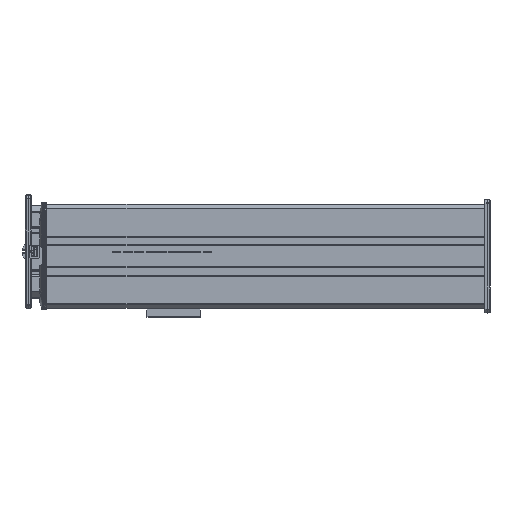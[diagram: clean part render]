
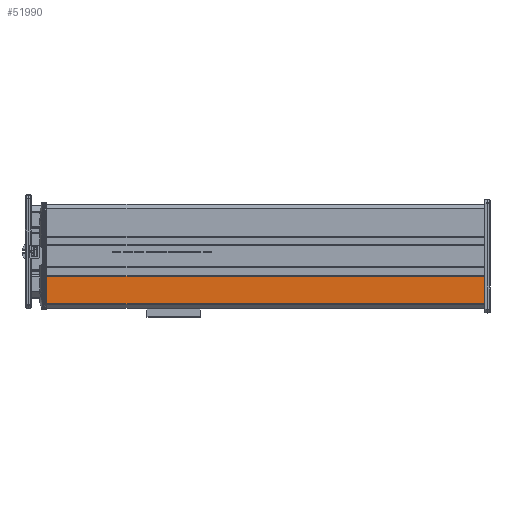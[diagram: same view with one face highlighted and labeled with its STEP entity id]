
A CAD part, left-side view. The second image highlights one B-rep face of the part: STEP entity #51990.
In plain terms, the highlighted planar face has unit normal (-1, 0, 0).
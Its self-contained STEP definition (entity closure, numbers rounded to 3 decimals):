
#48344=DIRECTION('',(0.,0.,-1.));
#48345=VECTOR('',#48344,39.079);
#48346=CARTESIAN_POINT('',(-340.4,7.5,-34.507));
#48347=LINE('',#48346,#48345);
#48615=DIRECTION('',(0.,0.,-1.));
#48616=VECTOR('',#48615,39.079);
#48617=CARTESIAN_POINT('',(-340.4,627.5,-34.507));
#48618=LINE('',#48617,#48616);
#49464=DIRECTION('',(0.,1.,0.));
#49465=VECTOR('',#49464,620.);
#49466=CARTESIAN_POINT('',(-340.4,7.5,-73.586));
#49467=LINE('',#49466,#49465);
#49473=DIRECTION('',(0.,1.,0.));
#49474=VECTOR('',#49473,620.);
#49475=CARTESIAN_POINT('',(-340.4,7.5,-34.507));
#49476=LINE('',#49475,#49474);
#49859=CARTESIAN_POINT('',(-340.4,7.5,-34.507));
#49860=CARTESIAN_POINT('',(-340.4,627.5,-34.507));
#49861=VERTEX_POINT('',#49859);
#49862=VERTEX_POINT('',#49860);
#49887=CARTESIAN_POINT('',(-340.4,627.5,-73.586));
#49888=VERTEX_POINT('',#49887);
#49889=CARTESIAN_POINT('',(-340.4,7.5,-73.586));
#49890=VERTEX_POINT('',#49889);
#51978=CARTESIAN_POINT('',(-340.4,7.5,-34.3));
#51979=DIRECTION('',(1.,0.,0.));
#51980=DIRECTION('',(0.,0.,-1.));
#51981=AXIS2_PLACEMENT_3D('',#51978,#51979,#51980);
#51982=PLANE('',#51981);
#51983=ORIENTED_EDGE('',*,*,#51972,.T.);
#51984=ORIENTED_EDGE('',*,*,#50509,.F.);
#51986=ORIENTED_EDGE('',*,*,#51985,.F.);
#51987=ORIENTED_EDGE('',*,*,#50282,.T.);
#51988=EDGE_LOOP('',(#51983,#51984,#51986,#51987));
#51989=FACE_OUTER_BOUND('',#51988,.F.);
#50282=EDGE_CURVE('',#49861,#49890,#48347,.T.);
#50509=EDGE_CURVE('',#49862,#49888,#48618,.T.);
#51972=EDGE_CURVE('',#49890,#49888,#49467,.T.);
#51985=EDGE_CURVE('',#49861,#49862,#49476,.T.);
#51990=ADVANCED_FACE('',(#51989),#51982,.F.);
